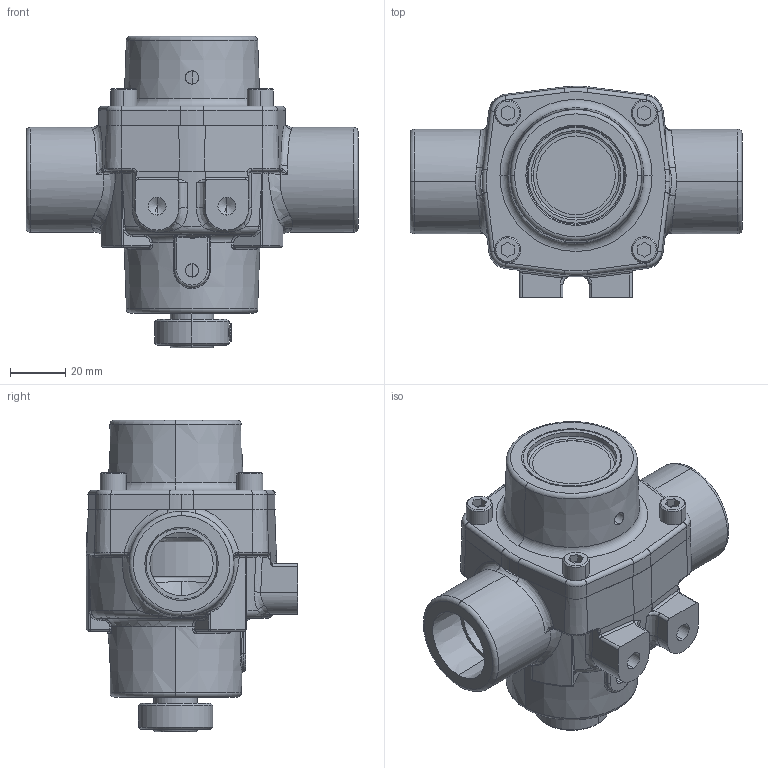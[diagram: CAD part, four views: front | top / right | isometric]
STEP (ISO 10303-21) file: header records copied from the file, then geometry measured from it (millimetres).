
FILE_DESCRIPTION (( 'STEP AP203' ), '1' );
FILE_NAME ('4001C-H.step', '2013-09-18T21:02:55', ( '' ), ( '' ), 'SwSTEP 2.0', 'SolidWorks 2012', '' );
FILE_SCHEMA (( 'CONFIG_CONTROL_DESIGN' ));
Length unit declared in the file: inch
Products named in the file (1): 4001C-H
Bounding box: 120.65 x 76.97 x 113.19 mm (x, y, z)
Volume: 319141.3 mm3; surface area: 53138.3 mm2
Topology: 1 solids, 9 shells, 832 faces, 2051 edges, 1243 vertices
Faces by surface type: cylinder 303, bspline 185, plane 152, torus 104, cone 73, sphere 15
Entity records: 50811 total; most frequent: CARTESIAN_POINT 32953, ORIENTED_EDGE 4044, DIRECTION 3291, EDGE_CURVE 2022, AXIS2_PLACEMENT_3D 1363, VERTEX_POINT 1241, EDGE_LOOP 881, FACE_OUTER_BOUND 832
